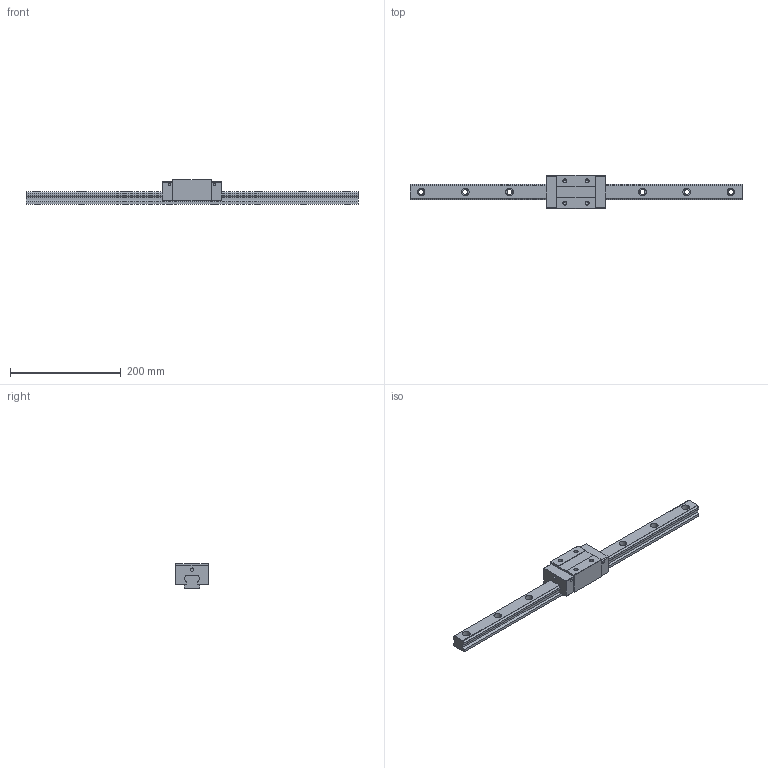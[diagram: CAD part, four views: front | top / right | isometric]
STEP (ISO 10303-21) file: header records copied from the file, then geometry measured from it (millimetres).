
FILE_DESCRIPTION (( 'STEP AP203' ), '1' );
FILE_NAME ('TRH30VN-WW.STEP', '2024-05-16T02:44:51', ( '' ), ( '' ), 'SwSTEP 2.0', 'SolidWorks 2022', '' );
FILE_SCHEMA (( 'CONFIG_CONTROL_DESIGN' ));
Length unit declared in the file: millimetre
Products named in the file (1): TRH30VN-WW
Bounding box: 600 x 60 x 45 mm (x, y, z)
Volume: 512573.3 mm3; surface area: 99828.5 mm2
Topology: 2 solids, 2 shells, 186 faces, 488 edges, 316 vertices
Faces by surface type: cylinder 88, plane 82, cone 16
Entity records: 5819 total; most frequent: DIRECTION 1038, CARTESIAN_POINT 983, ORIENTED_EDGE 960, EDGE_CURVE 480, AXIS2_PLACEMENT_3D 371, VERTEX_POINT 316, LINE 296, VECTOR 296
